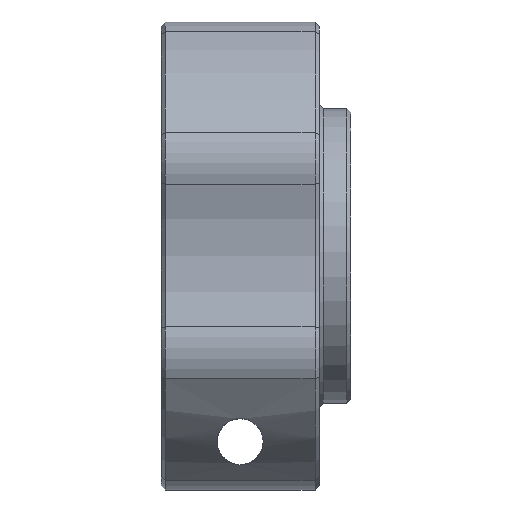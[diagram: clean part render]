
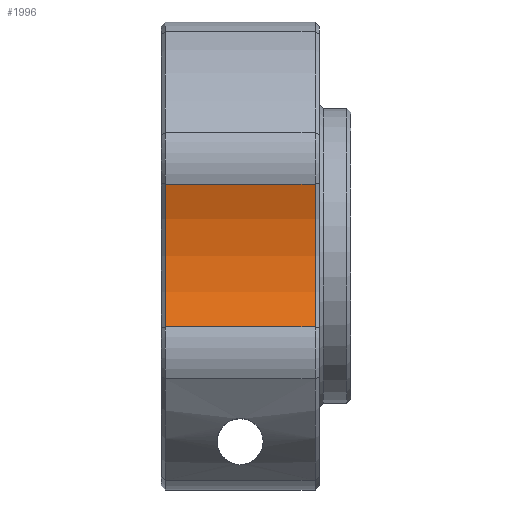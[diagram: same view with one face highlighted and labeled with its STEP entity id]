
A CAD part, top view. The second image highlights one B-rep face of the part: STEP entity #1996.
In plain terms, the highlighted cylindrical face has radius 12.7 mm (diameter 25.4 mm), a partial arc.
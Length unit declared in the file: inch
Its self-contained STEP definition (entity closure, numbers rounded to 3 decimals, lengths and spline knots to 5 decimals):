
#32=CYLINDRICAL_SURFACE('',#2234,0.5);
#194=CIRCLE('',#2116,0.5);
#213=CIRCLE('',#2158,0.5);
#334=FACE_OUTER_BOUND('',#461,.T.);
#461=EDGE_LOOP('',(#1739,#1740,#1741,#1742));
#623=LINE('',#3823,#780);
#624=LINE('',#3825,#781);
#780=VECTOR('',#2774,0.3937);
#781=VECTOR('',#2777,0.3937);
#904=VERTEX_POINT('',#3090);
#905=VERTEX_POINT('',#3094);
#944=VERTEX_POINT('',#3584);
#945=VERTEX_POINT('',#3588);
#1099=EDGE_CURVE('',#904,#905,#194,.T.);
#1171=EDGE_CURVE('',#944,#945,#213,.T.);
#1259=EDGE_CURVE('',#904,#945,#623,.T.);
#1260=EDGE_CURVE('',#905,#944,#624,.T.);
#1739=ORIENTED_EDGE('',*,*,#1099,.F.);
#1740=ORIENTED_EDGE('',*,*,#1259,.T.);
#1741=ORIENTED_EDGE('',*,*,#1171,.F.);
#1742=ORIENTED_EDGE('',*,*,#1260,.F.);
#1996=ADVANCED_FACE('',(#334),#32,.F.);
#2116=AXIS2_PLACEMENT_3D('',#3096,#2455,#2456);
#2158=AXIS2_PLACEMENT_3D('',#3590,#2577,#2578);
#2234=AXIS2_PLACEMENT_3D('',#3824,#2775,#2776);
#2455=DIRECTION('center_axis',(1.,0.,0.));
#2456=DIRECTION('ref_axis',(0.,1.,0.));
#2577=DIRECTION('center_axis',(-1.,0.,0.));
#2578=DIRECTION('ref_axis',(0.,1.,0.));
#2774=DIRECTION('',(1.,0.,0.));
#2775=DIRECTION('center_axis',(-1.,0.,0.));
#2776=DIRECTION('ref_axis',(0.,1.,0.));
#2777=DIRECTION('',(1.,0.,0.));
#3090=CARTESIAN_POINT('',(-0.05266,-0.16912,0.51698));
#3094=CARTESIAN_POINT('',(-0.05266,0.16912,0.51698));
#3096=CARTESIAN_POINT('Origin',(-0.05266,0.,
0.98751));
#3584=CARTESIAN_POINT('',(0.30266,0.16912,0.51698));
#3588=CARTESIAN_POINT('',(0.30266,-0.16912,0.51698));
#3590=CARTESIAN_POINT('Origin',(0.30266,0.,
0.98751));
#3823=CARTESIAN_POINT('',(0.25,-0.16912,0.51698));
#3824=CARTESIAN_POINT('Origin',(0.25,0.,0.98751));
#3825=CARTESIAN_POINT('',(0.25,0.16912,0.51698));
